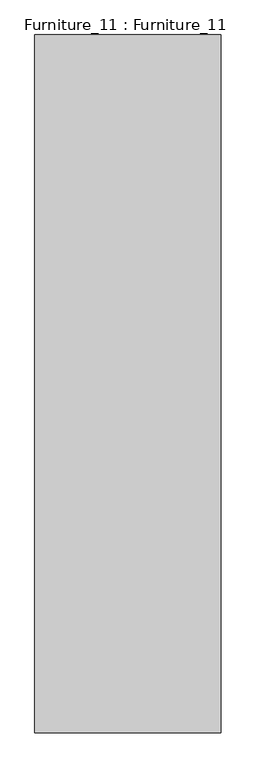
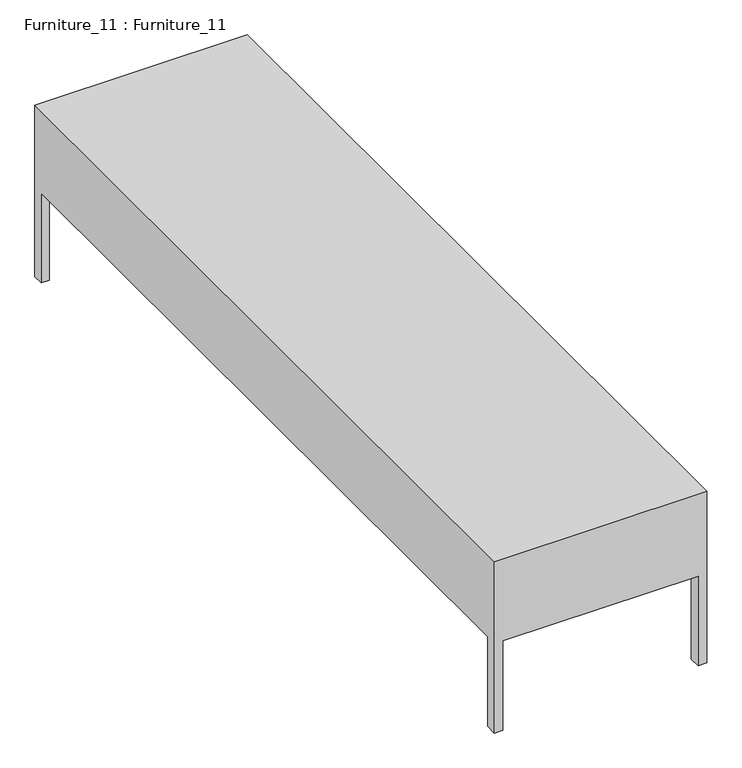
"""IFC4 building model written with IfcOpenShell, lengths in millimetres: furniture geometry, Furniture_11 : Furniture_11."""

from ifc_helpers import new_model, si_unit, origin, place, context, project, spatial, faceted_brep, source, transform, mapped, element, save


def furniture_11_furniture_11_f7b31755(model_context):
    return source(origin(), model_context, "Body", "Brep", [
        faceted_brep([(-4479.5188323, 18275.9062868, 3869.1185583), (-5029.5188323, 18275.9062868, 3869.1185583), (-5029.5188323, 16215.9062868, 3869.1185583), (-4479.5188323, 16215.9062868, 3869.1185583), (-4502.1125682, 18275.9062868, 3400.0), (-4479.5188323, 18275.9062868, 3400.0), (-4479.5188323, 18248.2340227, 3400.0), (-4502.1125682, 18248.2340227, 3400.0), (-5029.5188323, 18275.9062868, 3400.0), (-5007.7635438, 18275.9062868, 3400.0), (-5007.7635438, 18248.2340227, 3400.0), (-5029.5188323, 18248.2340227, 3400.0), (-4479.5188323, 16215.9062868, 3400.0), (-4502.1125682, 16215.9062868, 3400.0), (-4502.1125682, 16245.7662137, 3400.0), (-4479.5188323, 16245.7662137, 3400.0), (-5007.7635438, 16215.9062868, 3400.0), (-5029.5188323, 16215.9062868, 3400.0), (-5029.5188323, 16245.7662137, 3400.0), (-5007.7635438, 16245.7662137, 3400.0), (-4502.1125682, 18275.9062868, 3645.0), (-5007.7635438, 18275.9062868, 3645.0), (-5029.5188323, 18248.2340227, 3645.0), (-5029.5188323, 16245.7662137, 3645.0), (-5007.7635438, 16215.9062868, 3645.0), (-4502.1125682, 16215.9062868, 3645.0), (-4479.5188323, 16245.7662137, 3645.0), (-4479.5188323, 18248.2340227, 3645.0), (-4502.1125682, 18248.2340227, 3645.0), (-4502.1125682, 16245.7662137, 3645.0), (-5007.7635438, 18248.2340227, 3645.0), (-5007.7635438, 16245.7662137, 3645.0)], [[[0, 1, 2, 3]], [[4, 5, 6, 7]], [[8, 9, 10, 11]], [[12, 13, 14, 15]], [[16, 17, 18, 19]], [[1, 0, 5, 4, 20, 21, 9, 8]], [[2, 1, 8, 11, 22, 23, 18, 17]], [[3, 2, 17, 16, 24, 25, 13, 12]], [[0, 3, 12, 15, 26, 27, 6, 5]], [[20, 4, 7, 28]], [[13, 25, 29, 14]], [[9, 21, 30, 10]], [[24, 16, 19, 31]], [[21, 20, 28, 27, 26, 29, 25, 24, 31, 23, 22, 30]], [[29, 26, 15, 14]], [[23, 31, 19, 18]], [[27, 28, 7, 6]], [[30, 22, 11, 10]]]),
    ])


if __name__ == "__main__":
    model = new_model("IFC4")
    model_context = context("Model", 3, world=origin())
    ifc_project = project(units=[si_unit("LENGTHUNIT", "METRE", prefix="MILLI")], contexts=[model_context])
    site = spatial("IfcSite", under=ifc_project)
    building = spatial("IfcBuilding", under=site)
    placement = place(None, origin())
    furniture_11_furniture_11_shape = furniture_11_furniture_11_f7b31755(model_context)
    element("IfcFurniture", 1, ObjectType="Furniture_11 : Furniture_11", at=placement, inside=building, context=model_context, shape_type="MappedRepresentation", body=[
        mapped(furniture_11_furniture_11_shape, transform((0.0, 0.0, 0.0), x_axis=(1.0, 0.0, 0.0), y_axis=(0.0, 1.0, 0.0), z_axis=(0.0, 0.0, 1.0))),
    ])
    save(model, "model.ifc")
